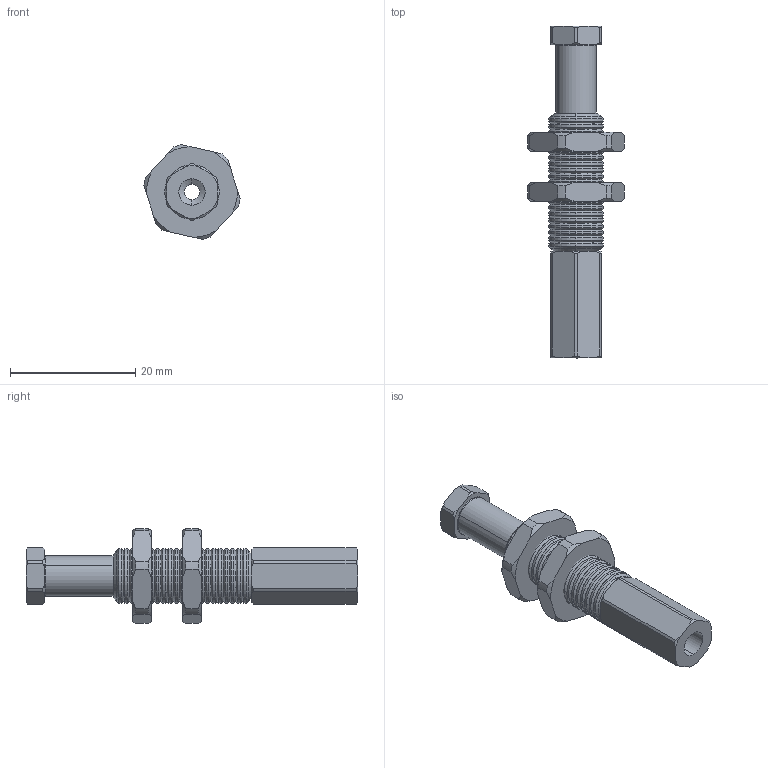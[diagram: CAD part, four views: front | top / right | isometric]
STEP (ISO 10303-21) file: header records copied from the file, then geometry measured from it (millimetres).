
FILE_DESCRIPTION (( 'STEP AP214' ), '1' );
FILE_NAME ('VFRT1011-M5.STEP', '2019-11-15T06:23:33', ( '微软用户' ), ( '微软中国' ), 'SwSTEP 2.0', 'SolidWorks 2016', '' );
FILE_SCHEMA (( 'AUTOMOTIVE_DESIGN' ));
Length unit declared in the file: millimetre
Products named in the file (1): VFRT1011-M5
Bounding box: 15.34 x 53 x 15.12 mm (x, y, z)
Volume: 2823.7 mm3; surface area: 4300.9 mm2
Topology: 5 solids, 5 shells, 312 faces, 774 edges, 478 vertices
Faces by surface type: cone 154, cylinder 109, plane 42, bspline 7
Entity records: 14161 total; most frequent: CARTESIAN_POINT 3294, DIRECTION 1592, ORIENTED_EDGE 1548, EDGE_CURVE 774, AXIS2_PLACEMENT_3D 648, VERTEX_POINT 478, CIRCLE 342, EDGE_LOOP 328
